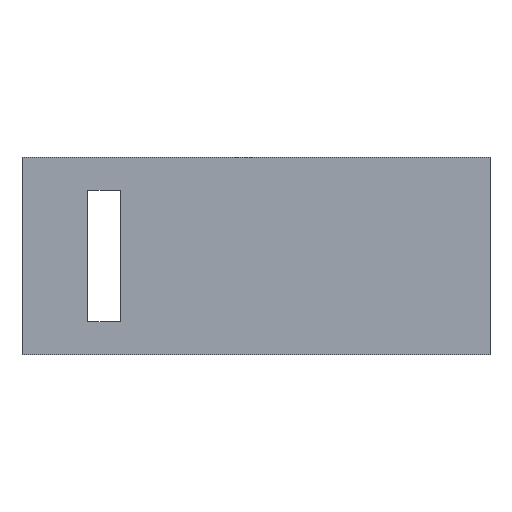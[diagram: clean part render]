
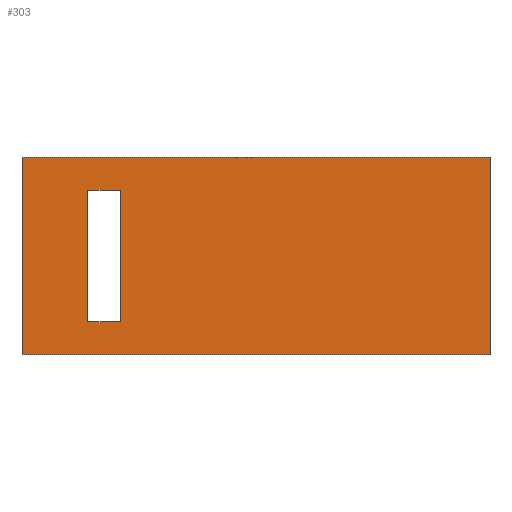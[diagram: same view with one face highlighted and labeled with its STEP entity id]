
A CAD part, front view. The second image highlights one B-rep face of the part: STEP entity #303.
In plain terms, the highlighted planar face has unit normal (0, -1, 0).
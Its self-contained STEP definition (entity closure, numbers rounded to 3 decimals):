
#4 = DIRECTION ( 'NONE',  ( 0., 0., -1. ) ) ;
#11 = VECTOR ( 'NONE', #79, 1000. ) ;
#14 = CARTESIAN_POINT ( 'NONE',  ( 40., 0., -100. ) ) ;
#20 = EDGE_CURVE ( 'NONE', #227, #237, #244, .T. ) ;
#23 = EDGE_CURVE ( 'NONE', #87, #176, #109, .T. ) ;
#25 = AXIS2_PLACEMENT_3D ( 'NONE', #301, #223, #66 ) ;
#28 = DIRECTION ( 'NONE',  ( 0., 0., 1. ) ) ;
#29 = ORIENTED_EDGE ( 'NONE', *, *, #95, .F. ) ;
#37 = EDGE_CURVE ( 'NONE', #207, #74, #312, .T. ) ;
#39 = VECTOR ( 'NONE', #138, 1000. ) ;
#46 = LINE ( 'NONE', #77, #51 ) ;
#49 = EDGE_CURVE ( 'NONE', #137, #207, #153, .T. ) ;
#50 = LINE ( 'NONE', #245, #80 ) ;
#51 = VECTOR ( 'NONE', #4, 1000. ) ;
#53 = CARTESIAN_POINT ( 'NONE',  ( 40., 0., -20. ) ) ;
#62 = VERTEX_POINT ( 'NONE', #160 ) ;
#66 = DIRECTION ( 'NONE',  ( 0., 0., -1. ) ) ;
#74 = VERTEX_POINT ( 'NONE', #182 ) ;
#77 = CARTESIAN_POINT ( 'NONE',  ( 285., 0., 0. ) ) ;
#78 = CARTESIAN_POINT ( 'NONE',  ( 40., 0., -100. ) ) ;
#79 = DIRECTION ( 'NONE',  ( 1., 0., 0. ) ) ;
#80 = VECTOR ( 'NONE', #294, 1000. ) ;
#86 = VECTOR ( 'NONE', #28, 1000. ) ;
#87 = VERTEX_POINT ( 'NONE', #214 ) ;
#95 = EDGE_CURVE ( 'NONE', #176, #227, #46, .T. ) ;
#100 = ORIENTED_EDGE ( 'NONE', *, *, #132, .F. ) ;
#109 = LINE ( 'NONE', #211, #147 ) ;
#110 = CARTESIAN_POINT ( 'NONE',  ( 40., 0., -100. ) ) ;
#120 = PLANE ( 'NONE',  #25 ) ;
#132 = EDGE_CURVE ( 'NONE', #237, #87, #257, .T. ) ;
#137 = VERTEX_POINT ( 'NONE', #110 ) ;
#138 = DIRECTION ( 'NONE',  ( 0., 0., 1. ) ) ;
#147 = VECTOR ( 'NONE', #320, 1000. ) ;
#153 = LINE ( 'NONE', #78, #86 ) ;
#157 = ORIENTED_EDGE ( 'NONE', *, *, #266, .T. ) ;
#160 = CARTESIAN_POINT ( 'NONE',  ( 60., 0., -100. ) ) ;
#168 = CARTESIAN_POINT ( 'NONE',  ( 285., 0., -120. ) ) ;
#176 = VERTEX_POINT ( 'NONE', #187 ) ;
#178 = EDGE_LOOP ( 'NONE', ( #264, #206, #157, #197 ) ) ;
#182 = CARTESIAN_POINT ( 'NONE',  ( 60., 0., -20. ) ) ;
#186 = CARTESIAN_POINT ( 'NONE',  ( 0., 0., -120. ) ) ;
#187 = CARTESIAN_POINT ( 'NONE',  ( 285., 0., 0. ) ) ;
#197 = ORIENTED_EDGE ( 'NONE', *, *, #318, .T. ) ;
#206 = ORIENTED_EDGE ( 'NONE', *, *, #37, .T. ) ;
#207 = VERTEX_POINT ( 'NONE', #272 ) ;
#209 = DIRECTION ( 'NONE',  ( -1., 0., 0. ) ) ;
#211 = CARTESIAN_POINT ( 'NONE',  ( 0., 0., 0. ) ) ;
#214 = CARTESIAN_POINT ( 'NONE',  ( 0., 0., 0. ) ) ;
#223 = DIRECTION ( 'NONE',  ( 0., -1., 0. ) ) ;
#225 = VECTOR ( 'NONE', #248, 1000. ) ;
#227 = VERTEX_POINT ( 'NONE', #168 ) ;
#237 = VERTEX_POINT ( 'NONE', #186 ) ;
#244 = LINE ( 'NONE', #261, #269 ) ;
#245 = CARTESIAN_POINT ( 'NONE',  ( 60., 0., -100. ) ) ;
#248 = DIRECTION ( 'NONE',  ( -1., 0., 0. ) ) ;
#250 = FACE_BOUND ( 'NONE', #178, .T. ) ;
#255 = EDGE_LOOP ( 'NONE', ( #100, #271, #29, #338 ) ) ;
#257 = LINE ( 'NONE', #296, #39 ) ;
#261 = CARTESIAN_POINT ( 'NONE',  ( 0., 0., -120. ) ) ;
#264 = ORIENTED_EDGE ( 'NONE', *, *, #49, .T. ) ;
#266 = EDGE_CURVE ( 'NONE', #74, #62, #50, .T. ) ;
#269 = VECTOR ( 'NONE', #209, 1000. ) ;
#271 = ORIENTED_EDGE ( 'NONE', *, *, #20, .F. ) ;
#272 = CARTESIAN_POINT ( 'NONE',  ( 40., 0., -20. ) ) ;
#275 = LINE ( 'NONE', #14, #225 ) ;
#292 = FACE_OUTER_BOUND ( 'NONE', #255, .T. ) ;
#294 = DIRECTION ( 'NONE',  ( 0., 0., -1. ) ) ;
#296 = CARTESIAN_POINT ( 'NONE',  ( 0., 0., 0. ) ) ;
#301 = CARTESIAN_POINT ( 'NONE',  ( 0., 0., 0. ) ) ;
#303 = ADVANCED_FACE ( 'NONE', ( #250, #292 ), #120, .T. ) ;
#312 = LINE ( 'NONE', #53, #11 ) ;
#318 = EDGE_CURVE ( 'NONE', #62, #137, #275, .T. ) ;
#320 = DIRECTION ( 'NONE',  ( 1., 0., 0. ) ) ;
#338 = ORIENTED_EDGE ( 'NONE', *, *, #23, .F. ) ;
